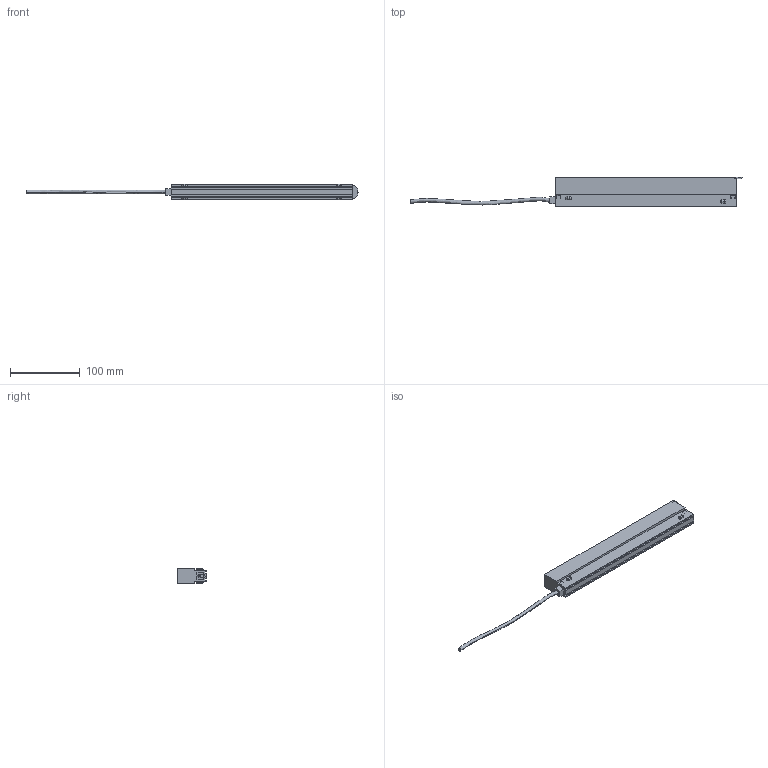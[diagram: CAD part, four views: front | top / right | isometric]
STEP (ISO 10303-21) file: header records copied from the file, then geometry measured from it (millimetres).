
FILE_DESCRIPTION((''),'2;1');
FILE_NAME('PRT0001','2023-07-10T',('Administrator'),(''),'PRO/ENGINEER BY PARAMETRIC TECHNOLOGY CORPORATION, 2015070','PRO/ENGINEER BY PARAMETRIC TECHNOLOGY CORPORATION, 2015070','');
FILE_SCHEMA(('CONFIG_CONTROL_DESIGN','SHAPE_APPEARANCE_LAYERS_GROUPS'));
Length unit declared in the file: millimetre
Products named in the file (1): PRT0001
Bounding box: 476.44 x 42.5 x 22 mm (x, y, z)
Volume: 217977.9 mm3; surface area: 42169.2 mm2
Topology: 1 solids, 1 shells, 107 faces, 272 edges, 170 vertices
Faces by surface type: plane 64, cylinder 29, sphere 8, bspline 6
Entity records: 4177 total; most frequent: CARTESIAN_POINT 1218, ORIENTED_EDGE 544, DIRECTION 532, COLOUR_RGB 290, EDGE_CURVE 272, VECTOR 202, LINE 202, VERTEX_POINT 170
